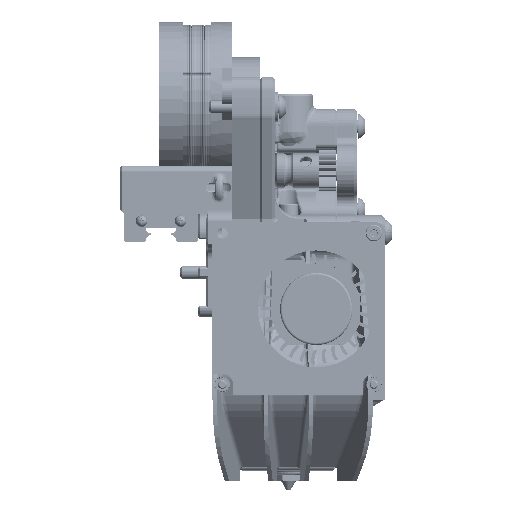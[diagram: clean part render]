
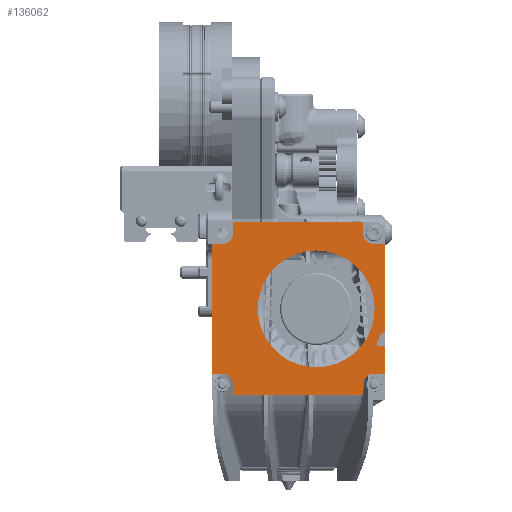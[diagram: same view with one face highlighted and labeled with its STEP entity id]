
A CAD part, left-side view. The second image highlights one B-rep face of the part: STEP entity #136062.
In plain terms, the highlighted planar face has unit normal (-1, 0, 0) as drawn and (0, 0, 1) by its records, which use the part's own axes.
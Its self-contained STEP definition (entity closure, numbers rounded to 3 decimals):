
#8009=FACE_BOUND('',#29148,.T.);
#11445=PLANE('',#150617);
#20857=FACE_OUTER_BOUND('',#29147,.T.);
#29147=EDGE_LOOP('',(#121320,#121321,#121322,#121323,#121324,#121325,#121326,
#121327,#121328,#121329,#121330,#121331,#121332,#121333,#121334,#121335,
#121336,#121337,#121338,#121339,#121340,#121341,#121342,#121343));
#29148=EDGE_LOOP('',(#121344));
#37382=LINE('',#329091,#45656);
#37423=LINE('',#329214,#45697);
#37428=LINE('',#329227,#45702);
#37432=LINE('',#329239,#45706);
#37488=LINE('',#329375,#45762);
#37495=LINE('',#329386,#45769);
#37499=LINE('',#329398,#45773);
#37503=LINE('',#329406,#45777);
#37508=LINE('',#329417,#45782);
#37512=LINE('',#329426,#45786);
#37514=LINE('',#329431,#45788);
#37521=LINE('',#329444,#45795);
#37530=LINE('',#329460,#45804);
#37535=LINE('',#329469,#45809);
#37539=LINE('',#329481,#45813);
#37540=LINE('',#329483,#45814);
#45656=VECTOR('',#183682,1000.);
#45697=VECTOR('',#183795,1000.);
#45702=VECTOR('',#183808,1000.);
#45706=VECTOR('',#183820,1000.);
#45762=VECTOR('',#183942,1000.);
#45769=VECTOR('',#183951,1000.);
#45773=VECTOR('',#183963,1000.);
#45777=VECTOR('',#183969,1000.);
#45782=VECTOR('',#183976,1000.);
#45786=VECTOR('',#183982,1000.);
#45788=VECTOR('',#183986,1000.);
#45795=VECTOR('',#183995,1000.);
#45804=VECTOR('',#184006,1000.);
#45809=VECTOR('',#184013,1000.);
#45813=VECTOR('',#184025,1000.);
#45814=VECTOR('',#184028,1000.);
#53303=CIRCLE('',#150531,13.5);
#53317=CIRCLE('',#150561,2.5);
#53319=CIRCLE('',#150565,2.5);
#53333=CIRCLE('',#150603,2.5);
#53335=CIRCLE('',#150614,2.5);
#53336=CIRCLE('',#150618,0.35);
#53337=CIRCLE('',#150619,0.3);
#53338=CIRCLE('',#150620,0.3);
#53339=CIRCLE('',#150621,0.35);
#64685=VERTEX_POINT('',#329088);
#64686=VERTEX_POINT('',#329090);
#64692=VERTEX_POINT('',#329108);
#64731=VERTEX_POINT('',#329211);
#64732=VERTEX_POINT('',#329213);
#64734=VERTEX_POINT('',#329219);
#64736=VERTEX_POINT('',#329225);
#64738=VERTEX_POINT('',#329231);
#64740=VERTEX_POINT('',#329237);
#64787=VERTEX_POINT('',#329373);
#64790=VERTEX_POINT('',#329384);
#64792=VERTEX_POINT('',#329390);
#64794=VERTEX_POINT('',#329396);
#64797=VERTEX_POINT('',#329404);
#64801=VERTEX_POINT('',#329414);
#64802=VERTEX_POINT('',#329416);
#64805=VERTEX_POINT('',#329423);
#64806=VERTEX_POINT('',#329425);
#64807=VERTEX_POINT('',#329429);
#64808=VERTEX_POINT('',#329430);
#64813=VERTEX_POINT('',#329443);
#64819=VERTEX_POINT('',#329458);
#64822=VERTEX_POINT('',#329467);
#64824=VERTEX_POINT('',#329473);
#64826=VERTEX_POINT('',#329479);
#83836=EDGE_CURVE('',#64686,#64685,#37382,.T.);
#83846=EDGE_CURVE('',#64692,#64692,#53303,.T.);
#83895=EDGE_CURVE('',#64732,#64731,#37423,.T.);
#83899=EDGE_CURVE('',#64731,#64734,#53317,.T.);
#83902=EDGE_CURVE('',#64736,#64734,#37428,.T.);
#83905=EDGE_CURVE('',#64685,#64738,#53319,.T.);
#83908=EDGE_CURVE('',#64740,#64738,#37432,.T.);
#83976=EDGE_CURVE('',#64740,#64787,#37488,.T.);
#83983=EDGE_CURVE('',#64787,#64790,#37495,.T.);
#83986=EDGE_CURVE('',#64792,#64790,#53333,.T.);
#83989=EDGE_CURVE('',#64794,#64792,#37499,.T.);
#83993=EDGE_CURVE('',#64794,#64797,#37503,.T.);
#83998=EDGE_CURVE('',#64802,#64801,#37508,.T.);
#84002=EDGE_CURVE('',#64806,#64805,#37512,.T.);
#84004=EDGE_CURVE('',#64807,#64808,#37514,.T.);
#84011=EDGE_CURVE('',#64813,#64732,#37521,.T.);
#84020=EDGE_CURVE('',#64819,#64736,#37530,.T.);
#84025=EDGE_CURVE('',#64819,#64822,#37535,.T.);
#84028=EDGE_CURVE('',#64824,#64822,#53335,.T.);
#84031=EDGE_CURVE('',#64826,#64824,#37539,.T.);
#84032=EDGE_CURVE('',#64686,#64826,#37540,.T.);
#84040=EDGE_CURVE('',#64797,#64802,#53336,.T.);
#84041=EDGE_CURVE('',#64801,#64806,#53337,.T.);
#84042=EDGE_CURVE('',#64805,#64807,#53338,.T.);
#84043=EDGE_CURVE('',#64808,#64813,#53339,.T.);
#121320=ORIENTED_EDGE('',*,*,#83976,.T.);
#121321=ORIENTED_EDGE('',*,*,#83983,.T.);
#121322=ORIENTED_EDGE('',*,*,#83986,.F.);
#121323=ORIENTED_EDGE('',*,*,#83989,.F.);
#121324=ORIENTED_EDGE('',*,*,#83993,.T.);
#121325=ORIENTED_EDGE('',*,*,#84040,.T.);
#121326=ORIENTED_EDGE('',*,*,#83998,.T.);
#121327=ORIENTED_EDGE('',*,*,#84041,.T.);
#121328=ORIENTED_EDGE('',*,*,#84002,.T.);
#121329=ORIENTED_EDGE('',*,*,#84042,.T.);
#121330=ORIENTED_EDGE('',*,*,#84004,.T.);
#121331=ORIENTED_EDGE('',*,*,#84043,.T.);
#121332=ORIENTED_EDGE('',*,*,#84011,.T.);
#121333=ORIENTED_EDGE('',*,*,#83895,.T.);
#121334=ORIENTED_EDGE('',*,*,#83899,.T.);
#121335=ORIENTED_EDGE('',*,*,#83902,.F.);
#121336=ORIENTED_EDGE('',*,*,#84020,.F.);
#121337=ORIENTED_EDGE('',*,*,#84025,.T.);
#121338=ORIENTED_EDGE('',*,*,#84028,.F.);
#121339=ORIENTED_EDGE('',*,*,#84031,.F.);
#121340=ORIENTED_EDGE('',*,*,#84032,.F.);
#121341=ORIENTED_EDGE('',*,*,#83836,.T.);
#121342=ORIENTED_EDGE('',*,*,#83905,.T.);
#121343=ORIENTED_EDGE('',*,*,#83908,.F.);
#121344=ORIENTED_EDGE('',*,*,#83846,.F.);
#136062=ADVANCED_FACE('',(#20857,#8009),#11445,.T.);
#150531=AXIS2_PLACEMENT_3D('',#329110,#183703,#183704);
#150561=AXIS2_PLACEMENT_3D('',#329221,#183802,#183803);
#150565=AXIS2_PLACEMENT_3D('',#329233,#183814,#183815);
#150603=AXIS2_PLACEMENT_3D('',#329392,#183957,#183958);
#150614=AXIS2_PLACEMENT_3D('',#329475,#184019,#184020);
#150617=AXIS2_PLACEMENT_3D('',#329495,#184036,#184037);
#150618=AXIS2_PLACEMENT_3D('',#329496,#184038,#184039);
#150619=AXIS2_PLACEMENT_3D('',#329497,#184040,#184041);
#150620=AXIS2_PLACEMENT_3D('',#329498,#184042,#184043);
#150621=AXIS2_PLACEMENT_3D('',#329499,#184044,#184045);
#183682=DIRECTION('',(1.,0.,0.));
#183703=DIRECTION('center_axis',(0.,0.,1.));
#183704=DIRECTION('ref_axis',(1.,0.,0.));
#183795=DIRECTION('',(-1.,0.,0.));
#183802=DIRECTION('center_axis',(0.,0.,-1.));
#183803=DIRECTION('ref_axis',(1.,0.,0.));
#183808=DIRECTION('',(0.,-1.,0.));
#183814=DIRECTION('center_axis',(0.,0.,-1.));
#183815=DIRECTION('ref_axis',(1.,0.,0.));
#183820=DIRECTION('',(0.,1.,0.));
#183942=DIRECTION('',(1.,0.,0.));
#183951=DIRECTION('',(0.,1.,0.));
#183957=DIRECTION('center_axis',(0.,0.,1.));
#183958=DIRECTION('ref_axis',(1.,0.,0.));
#183963=DIRECTION('',(-1.,0.,0.));
#183969=DIRECTION('',(0.,1.,0.));
#183976=DIRECTION('',(-1.,0.,0.));
#183982=DIRECTION('',(0.385,0.923,0.));
#183986=DIRECTION('',(1.,0.,0.));
#183995=DIRECTION('',(0.,1.,0.));
#184006=DIRECTION('',(1.,0.,0.));
#184013=DIRECTION('',(0.,-1.,0.));
#184019=DIRECTION('center_axis',(0.,0.,1.));
#184020=DIRECTION('ref_axis',(1.,0.,0.));
#184025=DIRECTION('',(1.,0.,0.));
#184028=DIRECTION('',(0.,1.,0.));
#184036=DIRECTION('center_axis',(0.,0.,1.));
#184037=DIRECTION('ref_axis',(1.,0.,0.));
#184038=DIRECTION('center_axis',(0.,0.,1.));
#184039=DIRECTION('ref_axis',(1.,0.,0.));
#184040=DIRECTION('center_axis',(0.,0.,-1.));
#184041=DIRECTION('ref_axis',(1.,0.,0.));
#184042=DIRECTION('center_axis',(0.,0.,-1.));
#184043=DIRECTION('ref_axis',(1.,0.,0.));
#184044=DIRECTION('center_axis',(0.,0.,1.));
#184045=DIRECTION('ref_axis',(1.,0.,0.));
#329088=CARTESIAN_POINT('',(4.088,12.405,25.289));
#329090=CARTESIAN_POINT('',(1.588,12.405,25.289));
#329091=CARTESIAN_POINT('',(21.588,12.405,25.289));
#329108=CARTESIAN_POINT('',(12.288,27.405,25.289));
#329110=CARTESIAN_POINT('Origin',(25.788,27.405,25.289));
#329211=CARTESIAN_POINT('',(39.088,42.405,25.289));
#329213=CARTESIAN_POINT('',(41.588,42.405,25.289));
#329214=CARTESIAN_POINT('',(21.588,42.405,25.289));
#329219=CARTESIAN_POINT('',(36.588,44.905,25.289));
#329221=CARTESIAN_POINT('Origin',(39.088,44.905,25.289));
#329225=CARTESIAN_POINT('',(36.588,47.405,25.289));
#329227=CARTESIAN_POINT('',(36.588,27.405,25.289));
#329231=CARTESIAN_POINT('',(6.588,9.905,25.289));
#329233=CARTESIAN_POINT('Origin',(4.088,9.905,25.289));
#329237=CARTESIAN_POINT('',(6.588,7.405,25.289));
#329239=CARTESIAN_POINT('',(6.588,27.405,25.289));
#329373=CARTESIAN_POINT('',(36.588,7.405,25.289));
#329375=CARTESIAN_POINT('',(21.588,7.405,25.289));
#329384=CARTESIAN_POINT('',(36.588,9.905,25.289));
#329386=CARTESIAN_POINT('',(36.588,27.405,25.289));
#329390=CARTESIAN_POINT('',(39.088,12.405,25.289));
#329392=CARTESIAN_POINT('Origin',(39.088,9.905,25.289));
#329396=CARTESIAN_POINT('',(41.588,12.405,25.289));
#329398=CARTESIAN_POINT('',(21.588,12.405,25.289));
#329404=CARTESIAN_POINT('',(41.588,18.555,25.289));
#329406=CARTESIAN_POINT('',(41.588,27.405,25.289));
#329414=CARTESIAN_POINT('',(40.038,18.905,25.289));
#329416=CARTESIAN_POINT('',(41.238,18.905,25.289));
#329417=CARTESIAN_POINT('',(21.588,18.905,25.289));
#329423=CARTESIAN_POINT('',(40.761,21.721,25.289));
#329425=CARTESIAN_POINT('',(39.761,19.321,25.289));
#329426=CARTESIAN_POINT('',(39.943,19.757,25.289));
#329429=CARTESIAN_POINT('',(41.038,21.905,25.289));
#329430=CARTESIAN_POINT('',(41.238,21.905,25.289));
#329431=CARTESIAN_POINT('',(21.588,21.905,25.289));
#329443=CARTESIAN_POINT('',(41.588,22.255,25.289));
#329444=CARTESIAN_POINT('',(41.588,27.405,25.289));
#329458=CARTESIAN_POINT('',(6.588,47.405,25.289));
#329460=CARTESIAN_POINT('',(21.588,47.405,25.289));
#329467=CARTESIAN_POINT('',(6.588,44.905,25.289));
#329469=CARTESIAN_POINT('',(6.588,27.405,25.289));
#329473=CARTESIAN_POINT('',(4.088,42.405,25.289));
#329475=CARTESIAN_POINT('Origin',(4.088,44.905,25.289));
#329479=CARTESIAN_POINT('',(1.588,42.405,25.289));
#329481=CARTESIAN_POINT('',(21.588,42.405,25.289));
#329483=CARTESIAN_POINT('',(1.588,27.405,25.289));
#329495=CARTESIAN_POINT('Origin',(21.588,27.405,25.289));
#329496=CARTESIAN_POINT('Origin',(41.238,18.555,25.289));
#329497=CARTESIAN_POINT('Origin',(40.038,19.205,25.289));
#329498=CARTESIAN_POINT('Origin',(41.038,21.605,25.289));
#329499=CARTESIAN_POINT('Origin',(41.238,22.255,25.289));
